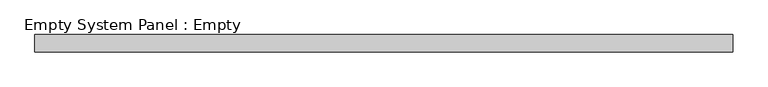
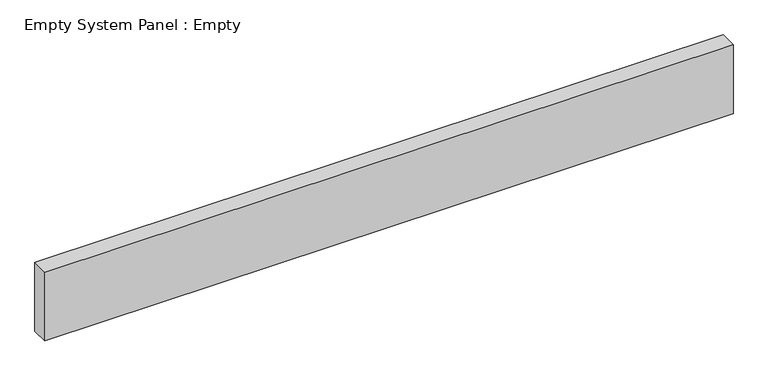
"""IFC4 building model written with IfcOpenShell, lengths in millimetres: plate geometry, Empty System Panel : Empty."""

from ifc_helpers import new_model, si_unit, origin, origin_with_axes, place, context, project, spatial, polyline, outline, extrude, source, transform, mapped, element, save


def empty_system_panel_empty_1204e38e(model_context):
    return source(origin(), model_context, "Body", "SweptSolid", [
        extrude(outline(polyline([(2000.0, -150.0), (-2000.0, -150.0), (-2000.0, -50.0), (2000.0, -50.0), (2000.0, -150.0)])), origin_with_axes(), (0.0, 0.0, 1.0), 422.4),
    ])


if __name__ == "__main__":
    model = new_model("IFC4")
    model_context = context("Model", 3, world=origin())
    ifc_project = project(units=[si_unit("LENGTHUNIT", "METRE", prefix="MILLI")], contexts=[model_context])
    site = spatial("IfcSite", under=ifc_project)
    building = spatial("IfcBuilding", under=site)
    placement = place(None, origin())
    empty_system_panel_empty_shape = empty_system_panel_empty_1204e38e(model_context)
    element("IfcPlate", 1, ObjectType="Empty System Panel : Empty", at=placement, inside=building, context=model_context, shape_type="MappedRepresentation", body=[
        mapped(empty_system_panel_empty_shape, transform((0.0, 0.0, 0.0), x_axis=(1.0, 0.0, 0.0), y_axis=(0.0, 1.0, 0.0), z_axis=(0.0, 0.0, 1.0))),
    ])
    save(model, "model.ifc")
